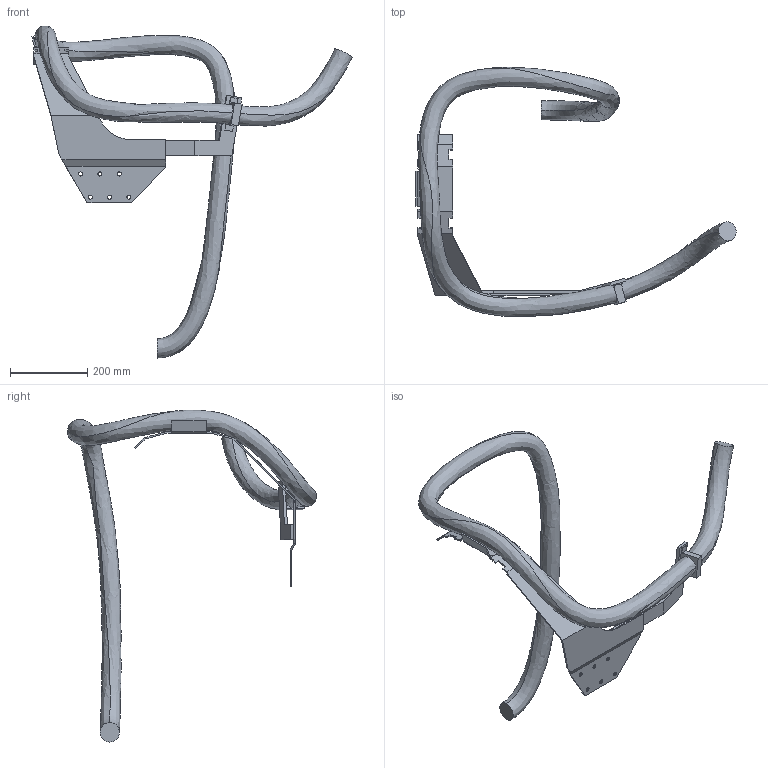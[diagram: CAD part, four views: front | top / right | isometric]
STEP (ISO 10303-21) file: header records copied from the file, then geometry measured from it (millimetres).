
FILE_DESCRIPTION (( 'STEP AP203' ), '1' );
FILE_NAME ('IRB6700-MH6_220-300_IRC5_rev02_LINK01_CABLE.STEP', '2014-08-27T11:26:43', ( 'ABB' ), ( 'ABB' ), 'SwSTEP 2.0', 'SolidWorks 2012', '' );
FILE_SCHEMA (( 'CONFIG_CONTROL_DESIGN' ));
Length unit declared in the file: millimetre
Products named in the file (1): IRB6700-MH6_220-300_IRC5_rev02_LINK01_CABLE
Bounding box: 828.36 x 644.26 x 858.61 mm (x, y, z)
Volume: 5744691.3 mm3; surface area: 649882.2 mm2
Topology: 1 solids, 1 shells, 120 faces, 342 edges, 222 vertices
Faces by surface type: plane 95, cylinder 16, bspline 9
Entity records: 6250 total; most frequent: CARTESIAN_POINT 3095, ORIENTED_EDGE 684, DIRECTION 567, EDGE_CURVE 342, VECTOR 271, LINE 271, VERTEX_POINT 222, AXIS2_PLACEMENT_3D 148
